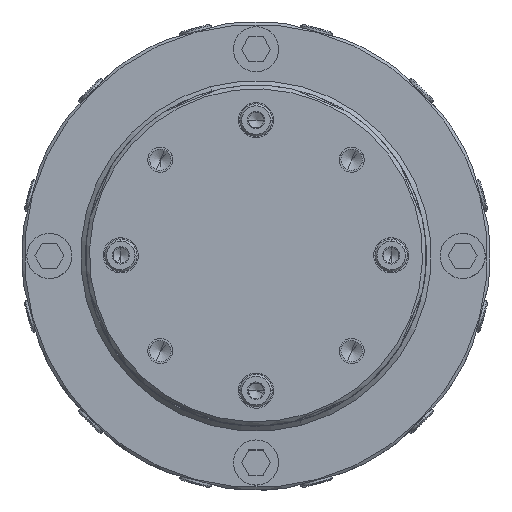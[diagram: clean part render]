
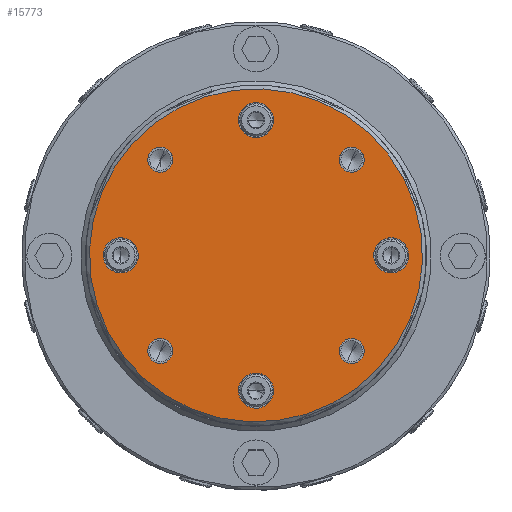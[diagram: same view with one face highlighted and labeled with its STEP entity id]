
A CAD part, top view. The second image highlights one B-rep face of the part: STEP entity #15773.
In plain terms, the highlighted planar face has unit normal (0, 0, 1).
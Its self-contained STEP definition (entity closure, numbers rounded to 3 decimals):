
#15128=CARTESIAN_POINT('',(36.27,33.564,155.0));
#15129=VERTEX_POINT('',#15128);
#15136=CARTESIAN_POINT('',(40.097,42.803,155.0));
#15137=VERTEX_POINT('',#15136);
#15138=CARTESIAN_POINT('',(38.184,38.184,155.0));
#15139=DIRECTION('',(0.0,0.0,1.0));
#15140=DIRECTION('',(0.383,0.924,-0.0));
#15141=AXIS2_PLACEMENT_3D('',#15138,#15139,#15140);
#15142=CIRCLE('',#15141,5.0);
#15143=EDGE_CURVE('no 17219',#15129,#15137,#15142,.T.);
#15160=CARTESIAN_POINT('',(-2.679,47.533,155.0));
#15161=VERTEX_POINT('',#15160);
#15168=CARTESIAN_POINT('',(2.679,60.467,155.0));
#15169=VERTEX_POINT('',#15168);
#15170=CARTESIAN_POINT('',(-0.0,54.0,155.0));
#15171=DIRECTION('',(0.0,0.0,1.0));
#15172=DIRECTION('',(0.383,0.924,-0.0));
#15173=AXIS2_PLACEMENT_3D('',#15170,#15171,#15172);
#15174=CIRCLE('',#15173,7.0);
#15175=EDGE_CURVE('no 17241',#15161,#15169,#15174,.T.);
#15192=CARTESIAN_POINT('',(-40.097,33.564,155.0));
#15193=VERTEX_POINT('',#15192);
#15200=CARTESIAN_POINT('',(-36.27,42.803,155.0));
#15201=VERTEX_POINT('',#15200);
#15202=CARTESIAN_POINT('',(-38.184,38.184,155.0));
#15203=DIRECTION('',(0.0,0.0,1.0));
#15204=DIRECTION('',(0.383,0.924,-0.0));
#15205=AXIS2_PLACEMENT_3D('',#15202,#15203,#15204);
#15206=CIRCLE('',#15205,5.0);
#15207=EDGE_CURVE('no 17263',#15193,#15201,#15206,.T.);
#15224=CARTESIAN_POINT('',(-40.097,-42.803,155.0));
#15225=VERTEX_POINT('',#15224);
#15232=CARTESIAN_POINT('',(-36.27,-33.564,155.0));
#15233=VERTEX_POINT('',#15232);
#15234=CARTESIAN_POINT('',(-38.184,-38.184,155.0));
#15235=DIRECTION('',(0.0,0.0,1.0));
#15236=DIRECTION('',(0.383,0.924,-0.0));
#15237=AXIS2_PLACEMENT_3D('',#15234,#15235,#15236);
#15238=CIRCLE('',#15237,5.0);
#15239=EDGE_CURVE('no 17285',#15225,#15233,#15238,.T.);
#15256=CARTESIAN_POINT('',(36.27,-42.803,155.0));
#15257=VERTEX_POINT('',#15256);
#15264=CARTESIAN_POINT('',(40.097,-33.564,155.0));
#15265=VERTEX_POINT('',#15264);
#15266=CARTESIAN_POINT('',(38.184,-38.184,155.0));
#15267=DIRECTION('',(0.0,0.0,1.0));
#15268=DIRECTION('',(0.383,0.924,-0.0));
#15269=AXIS2_PLACEMENT_3D('',#15266,#15267,#15268);
#15270=CIRCLE('',#15269,5.0);
#15271=EDGE_CURVE('no 17307',#15257,#15265,#15270,.T.);
#15288=CARTESIAN_POINT('',(-56.679,-6.467,155.0));
#15289=VERTEX_POINT('',#15288);
#15296=CARTESIAN_POINT('',(-51.321,6.467,155.0));
#15297=VERTEX_POINT('',#15296);
#15298=CARTESIAN_POINT('',(-54.0,0.0,155.0));
#15299=DIRECTION('',(0.0,0.0,1.0));
#15300=DIRECTION('',(0.383,0.924,-0.0));
#15301=AXIS2_PLACEMENT_3D('',#15298,#15299,#15300);
#15302=CIRCLE('',#15301,7.0);
#15303=EDGE_CURVE('no 17329',#15289,#15297,#15302,.T.);
#15320=CARTESIAN_POINT('',(-2.679,-60.467,155.0));
#15321=VERTEX_POINT('',#15320);
#15328=CARTESIAN_POINT('',(2.679,-47.533,155.0));
#15329=VERTEX_POINT('',#15328);
#15330=CARTESIAN_POINT('',(-0.0,-54.0,155.0));
#15331=DIRECTION('',(0.0,0.0,1.0));
#15332=DIRECTION('',(0.383,0.924,-0.0));
#15333=AXIS2_PLACEMENT_3D('',#15330,#15331,#15332);
#15334=CIRCLE('',#15333,7.0);
#15335=EDGE_CURVE('no 17351',#15321,#15329,#15334,.T.);
#15352=CARTESIAN_POINT('',(51.321,-6.467,155.0));
#15353=VERTEX_POINT('',#15352);
#15360=CARTESIAN_POINT('',(56.679,6.467,155.0));
#15361=VERTEX_POINT('',#15360);
#15362=CARTESIAN_POINT('',(54.0,0.0,155.0));
#15363=DIRECTION('',(0.0,0.0,1.0));
#15364=DIRECTION('',(0.383,0.924,-0.0));
#15365=AXIS2_PLACEMENT_3D('',#15362,#15363,#15364);
#15366=CIRCLE('',#15365,7.0);
#15367=EDGE_CURVE('no 17373',#15353,#15361,#15366,.T.);
#15668=ORIENTED_EDGE('',*,*,#15367,.F.);
#15669=CARTESIAN_POINT('',(54.0,0.0,155.0));
#15670=DIRECTION('',(0.0,0.0,1.0));
#15671=DIRECTION('',(0.383,0.924,-0.0));
#15672=AXIS2_PLACEMENT_3D('',#15669,#15670,#15671);
#15673=CIRCLE('',#15672,7.0);
#15674=EDGE_CURVE('no 17564',#15361,#15353,#15673,.T.);
#15675=ORIENTED_EDGE('',*,*,#15674,.F.);
#15676=EDGE_LOOP('',(#15668,#15675));
#15677=FACE_BOUND('',#15676,.T.);
#15678=ORIENTED_EDGE('',*,*,#15335,.F.);
#15679=CARTESIAN_POINT('',(-0.0,-54.0,155.0));
#15680=DIRECTION('',(0.0,0.0,1.0));
#15681=DIRECTION('',(0.383,0.924,-0.0));
#15682=AXIS2_PLACEMENT_3D('',#15679,#15680,#15681);
#15683=CIRCLE('',#15682,7.0);
#15684=EDGE_CURVE('no 17571',#15329,#15321,#15683,.T.);
#15685=ORIENTED_EDGE('',*,*,#15684,.F.);
#15686=EDGE_LOOP('',(#15678,#15685));
#15687=FACE_BOUND('',#15686,.T.);
#15688=ORIENTED_EDGE('',*,*,#15303,.F.);
#15689=CARTESIAN_POINT('',(-54.0,0.0,155.0));
#15690=DIRECTION('',(0.0,0.0,1.0));
#15691=DIRECTION('',(0.383,0.924,-0.0));
#15692=AXIS2_PLACEMENT_3D('',#15689,#15690,#15691);
#15693=CIRCLE('',#15692,7.0);
#15694=EDGE_CURVE('no 17578',#15297,#15289,#15693,.T.);
#15695=ORIENTED_EDGE('',*,*,#15694,.F.);
#15696=EDGE_LOOP('',(#15688,#15695));
#15697=FACE_BOUND('',#15696,.T.);
#15698=ORIENTED_EDGE('',*,*,#15271,.F.);
#15699=CARTESIAN_POINT('',(38.184,-38.184,155.0));
#15700=DIRECTION('',(0.0,0.0,1.0));
#15701=DIRECTION('',(0.383,0.924,-0.0));
#15702=AXIS2_PLACEMENT_3D('',#15699,#15700,#15701);
#15703=CIRCLE('',#15702,5.0);
#15704=EDGE_CURVE('no 17585',#15265,#15257,#15703,.T.);
#15705=ORIENTED_EDGE('',*,*,#15704,.F.);
#15706=EDGE_LOOP('',(#15698,#15705));
#15707=FACE_BOUND('',#15706,.T.);
#15708=ORIENTED_EDGE('',*,*,#15239,.F.);
#15709=CARTESIAN_POINT('',(-38.184,-38.184,155.0));
#15710=DIRECTION('',(0.0,0.0,1.0));
#15711=DIRECTION('',(0.383,0.924,-0.0));
#15712=AXIS2_PLACEMENT_3D('',#15709,#15710,#15711);
#15713=CIRCLE('',#15712,5.0);
#15714=EDGE_CURVE('no 17592',#15233,#15225,#15713,.T.);
#15715=ORIENTED_EDGE('',*,*,#15714,.F.);
#15716=EDGE_LOOP('',(#15708,#15715));
#15717=FACE_BOUND('',#15716,.T.);
#15718=ORIENTED_EDGE('',*,*,#15207,.F.);
#15719=CARTESIAN_POINT('',(-38.184,38.184,155.0));
#15720=DIRECTION('',(0.0,0.0,1.0));
#15721=DIRECTION('',(0.383,0.924,-0.0));
#15722=AXIS2_PLACEMENT_3D('',#15719,#15720,#15721);
#15723=CIRCLE('',#15722,5.0);
#15724=EDGE_CURVE('no 17599',#15201,#15193,#15723,.T.);
#15725=ORIENTED_EDGE('',*,*,#15724,.F.);
#15726=EDGE_LOOP('',(#15718,#15725));
#15727=FACE_BOUND('',#15726,.T.);
#15728=ORIENTED_EDGE('',*,*,#15175,.F.);
#15729=CARTESIAN_POINT('',(-0.0,54.0,155.0));
#15730=DIRECTION('',(0.0,0.0,1.0));
#15731=DIRECTION('',(0.383,0.924,-0.0));
#15732=AXIS2_PLACEMENT_3D('',#15729,#15730,#15731);
#15733=CIRCLE('',#15732,7.0);
#15734=EDGE_CURVE('no 17606',#15169,#15161,#15733,.T.);
#15735=ORIENTED_EDGE('',*,*,#15734,.F.);
#15736=EDGE_LOOP('',(#15728,#15735));
#15737=FACE_BOUND('',#15736,.T.);
#15738=ORIENTED_EDGE('',*,*,#15143,.F.);
#15739=CARTESIAN_POINT('',(38.184,38.184,155.0));
#15740=DIRECTION('',(0.0,0.0,1.0));
#15741=DIRECTION('',(0.383,0.924,-0.0));
#15742=AXIS2_PLACEMENT_3D('',#15739,#15740,#15741);
#15743=CIRCLE('',#15742,5.0);
#15744=EDGE_CURVE('no 17613',#15137,#15129,#15743,.T.);
#15745=ORIENTED_EDGE('',*,*,#15744,.F.);
#15746=EDGE_LOOP('',(#15738,#15745));
#15747=FACE_BOUND('',#15746,.T.);
#15748=CARTESIAN_POINT('',(-25.448,-61.438,155.0));
#15749=VERTEX_POINT('',#15748);
#15750=CARTESIAN_POINT('',(25.448,61.438,155.0));
#15751=VERTEX_POINT('',#15750);
#15752=CARTESIAN_POINT('',(-0.0,0.0,155.0));
#15753=DIRECTION('',(0.0,0.0,1.0));
#15754=DIRECTION('',(-0.383,-0.924,0.0));
#15755=AXIS2_PLACEMENT_3D('',#15752,#15753,#15754);
#15756=CIRCLE('',#15755,66.5);
#15757=EDGE_CURVE('no 17622',#15749,#15751,#15756,.T.);
#15758=ORIENTED_EDGE('',*,*,#15757,.T.);
#15759=CARTESIAN_POINT('',(-0.0,0.0,155.0));
#15760=DIRECTION('',(0.0,0.0,1.0));
#15761=DIRECTION('',(-0.383,-0.924,0.0));
#15762=AXIS2_PLACEMENT_3D('',#15759,#15760,#15761);
#15763=CIRCLE('',#15762,66.5);
#15764=EDGE_CURVE('no 17626',#15751,#15749,#15763,.T.);
#15765=ORIENTED_EDGE('',*,*,#15764,.T.);
#15766=EDGE_LOOP('',(#15758,#15765));
#15767=FACE_OUTER_BOUND('',#15766,.T.);
#15768=CARTESIAN_POINT('',(-0.0,0.0,155.0));
#15769=DIRECTION('',(-0.0,-0.0,-1.0));
#15770=DIRECTION('',(-0.383,-0.924,0.0));
#15771=AXIS2_PLACEMENT_3D('',#15768,#15769,#15770);
#15772=PLANE('',#15771);
#15773=ADVANCED_FACE('no 17557',(#15677,#15687,#15697,#15707,#15717,#15727,#15737,#15747,#15767),#15772,.F.);
